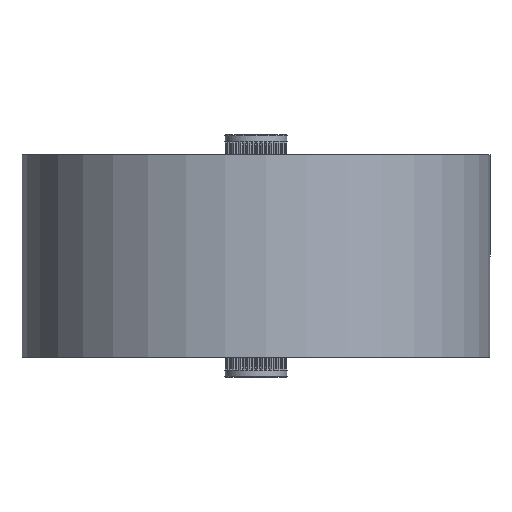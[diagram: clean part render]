
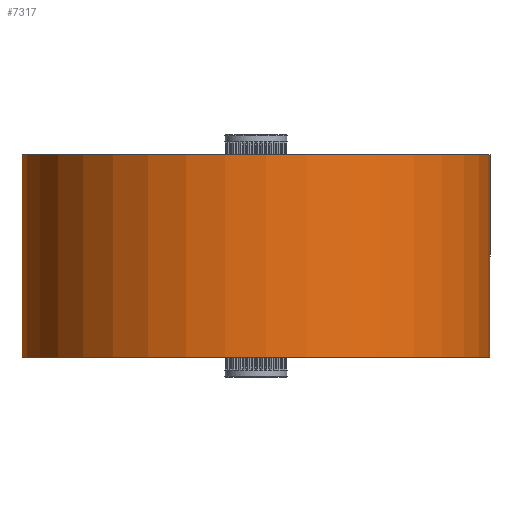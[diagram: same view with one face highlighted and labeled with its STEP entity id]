
A CAD part, front view. The second image highlights one B-rep face of the part: STEP entity #7317.
In plain terms, the highlighted cylindrical face has radius 30 mm (diameter 60 mm), a full revolution.
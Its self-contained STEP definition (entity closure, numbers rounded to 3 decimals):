
#4558=CARTESIAN_POINT('',(18.268,23.797,21.856));
#4559=VERTEX_POINT('',#4558);
#4560=CARTESIAN_POINT('',(0.0,0.0,21.856));
#4561=DIRECTION('',(0.0,0.0,1.0));
#4562=DIRECTION('',(-0.609,-0.793,0.0));
#4563=AXIS2_PLACEMENT_3D('',#4560,#4561,#4562);
#4564=CIRCLE('',#4563,30.0);
#4565=EDGE_CURVE('',#4559,#4559,#4564,.T.);
#6100=CARTESIAN_POINT('',(18.268,23.797,-4.064));
#6101=VERTEX_POINT('',#6100);
#6102=CARTESIAN_POINT('',(0.0,0.0,-4.064));
#6103=DIRECTION('',(0.0,0.0,-1.0));
#6104=DIRECTION('',(-0.609,-0.793,0.0));
#6105=AXIS2_PLACEMENT_3D('',#6102,#6103,#6104);
#6106=CIRCLE('',#6105,30.0);
#6107=EDGE_CURVE('',#6101,#6101,#6106,.T.);
#7306=CARTESIAN_POINT('',(0.0,0.0,-4.064));
#7307=DIRECTION('',(0.0,0.0,1.0));
#7308=DIRECTION('',(-0.609,-0.793,0.0));
#7309=AXIS2_PLACEMENT_3D('',#7306,#7307,#7308);
#7310=CYLINDRICAL_SURFACE('',#7309,30.0);
#7311=ORIENTED_EDGE('',*,*,#4565,.F.);
#7312=EDGE_LOOP('',(#7311));
#7313=FACE_OUTER_BOUND('',#7312,.T.);
#7314=ORIENTED_EDGE('',*,*,#6107,.F.);
#7315=EDGE_LOOP('',(#7314));
#7316=FACE_BOUND('',#7315,.T.);
#7317=ADVANCED_FACE('',(#7313,#7316),#7310,.T.);
